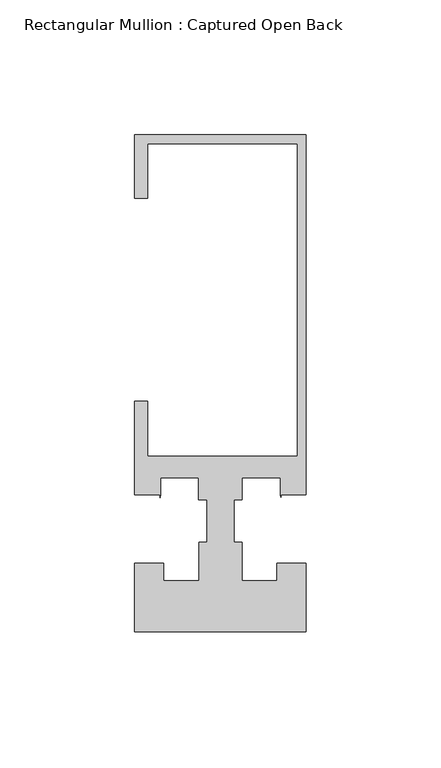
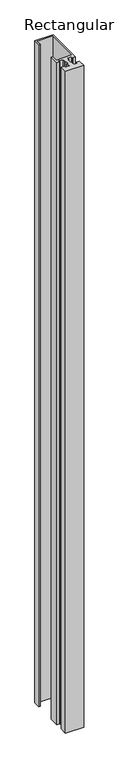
"""IFC4 building model written with IfcOpenShell, lengths in millimetres: member geometry, Rectangular Mullion : Captured Open Back."""

from ifc_helpers import new_model, si_unit, frame, origin, place, context, project, spatial, polyline, outline, extrude, source, transform, mapped, element, save


def rectangular_mullion_captured_open_back_d715ee20(model_context):
    return source(origin(), model_context, "Body", "SweptSolid", [
        extrude(outline(polyline([(-63.5205663, 114.3), (0.0, 114.3), (0.0, -18.9488461), (-9.3386849, -18.9488461), (-9.3386849, -19.8905485), (-9.5249909, -18.948961), (-9.5249909, -12.7), (-23.8124458, -12.7), (-23.8124458, -20.8793999), (-26.7860526, -20.8793999), (-26.7860526, -36.6491027), (-23.8124461, -36.6491027), (-23.8124461, -50.8001709), (-10.7229117, -50.8001709), (-10.7229117, -44.4247364), (-0.0205663, -44.4247364), (-0.0205663, -69.8502416), (-63.5205663, -69.8502416), (-63.5205663, -44.4245655), (-52.8345479, -44.4245655), (-52.8345479, -50.8001709), (-39.6874472, -50.8001709), (-39.6874472, -36.6491027), (-36.738785, -36.6491027), (-36.738785, -20.8793999), (-39.7916658, -20.8793999), (-39.7916658, -12.7), (-53.9751125, -12.7), (-53.9751125, -18.933673), (-54.1413824, -20.0839351), (-54.1413824, -18.933673), (-63.5205663, -18.933673), (-63.5205663, 15.5833982), (-58.7374998, 15.5833982), (-58.7374998, -4.7625735), (-3.175617, -4.7625735), (-3.175617, 111.1250145), (-58.7374998, 111.1250145), (-58.7374998, 90.8721193), (-63.5205663, 90.8721193), (-63.5205663, 114.3)])), frame((0.0, 0.0, -2438.4), z_axis=(0.0, 0.0, 1.0), x_axis=(1.0, 0.0, 0.0)), (0.0, 0.0, 1.0), 2438.4),
    ])


if __name__ == "__main__":
    model = new_model("IFC4")
    model_context = context("Model", 3, world=origin())
    ifc_project = project(units=[si_unit("LENGTHUNIT", "METRE", prefix="MILLI")], contexts=[model_context])
    site = spatial("IfcSite", under=ifc_project)
    building = spatial("IfcBuilding", under=site)
    placement = place(None, origin())
    rectangular_mullion_captured_open_back_shape = rectangular_mullion_captured_open_back_d715ee20(model_context)
    element("IfcMember", 1, ObjectType="Rectangular Mullion : Captured Open Back", at=placement, inside=building, context=model_context, shape_type="MappedRepresentation", body=[
        mapped(rectangular_mullion_captured_open_back_shape, transform((0.0, 0.0, 0.0), x_axis=(1.0, 0.0, 0.0), y_axis=(0.0, 1.0, 0.0), z_axis=(0.0, 0.0, 1.0))),
    ])
    save(model, "model.ifc")
